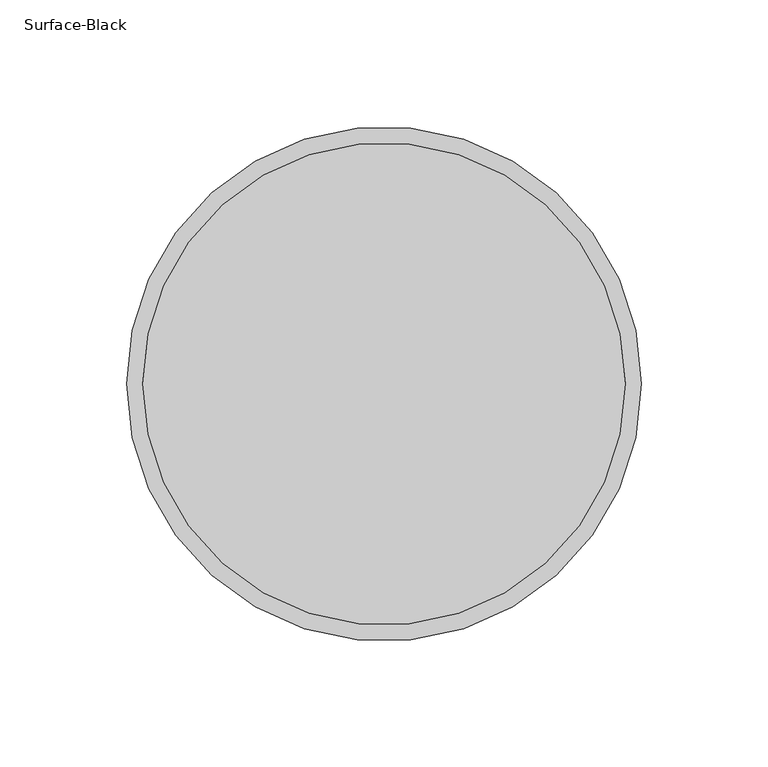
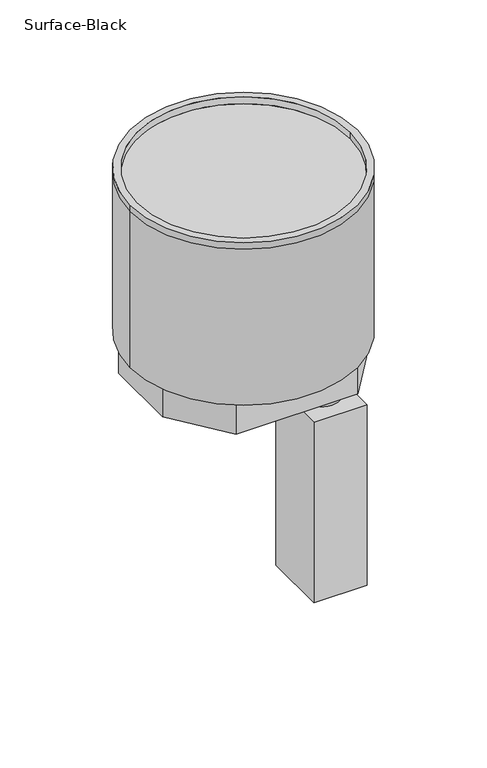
"""IFC4 building model written with IfcOpenShell, lengths in millimetres: proxy geometry, Poke_Thru_Device-Evolution_8AT_Series-Wiremold-Assembly : Surface-Black."""

from ifc_helpers import new_model, si_unit, point, frame, frame_2d, origin, origin_with_axes, place, context, project, spatial, polyline, circle_curve, trimmed, segment, composite_curve, outline, extrude, source, transform, mapped, element, save
from ifc_brep_helpers import plane_surface, cylinder_surface, revolved_surface, advanced_brep


def surface_black_841d07af(model_context):
    return source(origin(), model_context, "Body", "SolidModel", [
        advanced_brep(
        [(95.25, 0.0, -6.35), (-95.25, 0.0, -6.35), (-101.6, 0.0, -153.67), (101.6, 0.0, -153.67), (101.6, 0.0, -6.35), (-101.6, 0.0, -6.35), (-101.6, 0.0, 0.0), (101.6, 0.0, 0.0), (-95.25, 0.0, 0.0), (95.25, 0.0, 0.0)],
        [
            (0, 1, circle_curve(frame((0.0, 0.0, -6.35), z_axis=(0.0, 0.0, 1.0), x_axis=(1.0, 0.0, 0.0)), 95.25)),
            (1, 0, circle_curve(frame((0.0, 0.0, -6.35), z_axis=(0.0, 0.0, 1.0), x_axis=(1.0, 0.0, 0.0)), 95.25)),
            (2, 3, circle_curve(frame((0.0, 0.0, -153.67), z_axis=(0.0, 0.0, -1.0), x_axis=(1.0, 0.0, 0.0)), 101.6)),
            (3, 2, circle_curve(frame((0.0, 0.0, -153.67), z_axis=(0.0, 0.0, -1.0), x_axis=(1.0, 0.0, 0.0)), 101.6)),
            (3, 4),
            (4, 5, circle_curve(frame((0.0, 0.0, -6.35), z_axis=(0.0, 0.0, -1.0), x_axis=(1.0, 0.0, 0.0)), 101.6)),
            (5, 2),
            (5, 4, circle_curve(frame((0.0, 0.0, -6.35), z_axis=(0.0, 0.0, -1.0), x_axis=(1.0, 0.0, 0.0)), 101.6)),
            (6, 7, circle_curve(origin_with_axes(), 101.6)),
            (7, 6, circle_curve(origin_with_axes(), 101.6)),
            (8, 9, circle_curve(frame((0.0, 0.0, 0.0), z_axis=(0.0, 0.0, -1.0), x_axis=(1.0, 0.0, 0.0)), 95.25)),
            (9, 8, circle_curve(frame((0.0, 0.0, 0.0), z_axis=(0.0, 0.0, -1.0), x_axis=(1.0, 0.0, 0.0)), 95.25)),
            (6, 5),
            (4, 7),
            (8, 1),
            (0, 9),
        ],
        [
            plane_surface(frame((101.6, 0.0, -6.35), z_axis=(0.0, 0.0, 1.0), x_axis=(0.0, 1.0, 0.0))),
            plane_surface(frame((101.6, 0.0, -153.67), z_axis=(0.0, 0.0, -1.0), x_axis=(0.0, -1.0, 0.0))),
            cylinder_surface(frame((0.0, 0.0, -153.67), z_axis=(0.0, 0.0, 1.0), x_axis=(1.0, 0.0, 0.0)), 101.6),
            plane_surface(frame((101.6, 0.0, 0.0), z_axis=(0.0, 0.0, 1.0), x_axis=(0.0, 1.0, 0.0))),
            cylinder_surface(frame((0.0, 0.0, -6.35), z_axis=(0.0, 0.0, 1.0), x_axis=(1.0, 0.0, 0.0)), 101.6),
            revolved_surface(polyline([(95.25, 0.0, -6.35), (95.25, 0.0, 0.0)]), (0.0, 0.0, 0.0), (0.0, 0.0, -1.0)),
        ],
        [
            (0, [[1, 2]]),
            (1, [[3, 4]]),
            (2, [[-4, 5, 6, 7]]),
            (2, [[-3, -7, 8, -5]]),
            (3, [[9, 10], [11, 12]]),
            (4, [[-9, 13, -6, 14]]),
            (4, [[-10, -14, -8, -13]]),
            (5, [[-11, 15, -1, 16]]),
            (5, [[-12, -16, -2, -15]]),
        ],
    ),
        extrude(outline(polyline([(54.61, 82.55), (92.075, 34.036), (92.075, -34.036), (54.61, -82.55), (-54.61, -82.55), (-92.075, -34.036), (-92.075, 34.036), (-54.61, 82.55), (54.61, 82.55)])), frame((0.0, 0.0, -182.88), z_axis=(0.0, 0.0, 1.0), x_axis=(1.0, 0.0, 0.0)), (0.0, 0.0, 1.0), 29.21),
        extrude(outline(composite_curve([segment(trimmed(circle_curve(frame_2d((69.469, -0.229668)), 11.1252), [point((58.3438, -0.229668))], [point((80.5942, -0.229668))], False, "CARTESIAN"), True, "CONTINUOUS"), segment(trimmed(circle_curve(frame_2d((69.469, -0.229668)), 11.1252), [point((80.5942, -0.229668))], [point((58.3438, -0.229668))], False, "CARTESIAN"), True, "CONTINUOUS")], self_intersect=False)), frame((0.0, 0.0, -218.7956), z_axis=(0.0, 0.0, 1.0), x_axis=(1.0, 0.0, 0.0)), (0.0, 0.0, 1.0), 35.9156),
        extrude(outline(composite_curve([segment(trimmed(circle_curve(frame_2d((69.469, -0.229668)), 16.0528), [point((53.4162, -0.229668))], [point((85.5218, -0.229668))], False, "CARTESIAN"), True, "CONTINUOUS"), segment(trimmed(circle_curve(frame_2d((69.469, -0.229668)), 16.0528), [point((85.5218, -0.229668))], [point((53.4162, -0.229668))], False, "CARTESIAN"), True, "CONTINUOUS")], self_intersect=False)), frame((0.0, 0.0, -239.1156), z_axis=(0.0, 0.0, 1.0), x_axis=(1.0, 0.0, 0.0)), (0.0, 0.0, 1.0), 20.32),
        extrude(outline(polyline([(93.2688, 28.980332), (93.2688, -29.439668), (45.6692, -29.439668), (45.6692, 28.980332), (93.2688, 28.980332)])), frame((0.0, 0.0, -409.575), z_axis=(0.0, 0.0, 1.0), x_axis=(1.0, 0.0, 0.0)), (0.0, 0.0, 1.0), 170.4594),
    ])


if __name__ == "__main__":
    model = new_model("IFC4")
    model_context = context("Model", 3, world=origin())
    ifc_project = project(units=[si_unit("LENGTHUNIT", "METRE", prefix="MILLI")], contexts=[model_context])
    site = spatial("IfcSite", under=ifc_project)
    building = spatial("IfcBuilding", under=site)
    placement = place(None, origin())
    surface_black_shape = surface_black_841d07af(model_context)
    element("IfcBuildingElementProxy", 1, Name="Poke_Thru_Device-Evolution_8AT_Series-Wiremold-Assembly : Surface-Black", ObjectType="Poke_Thru_Device-Evolution_8AT_Series-Wiremold-Assembly : Surface-Black", at=placement, inside=building, context=model_context, shape_type="MappedRepresentation", body=[
        mapped(surface_black_shape, transform((0.0, 0.0, 0.0), x_axis=(1.0, 0.0, 0.0), y_axis=(0.0, 1.0, 0.0), z_axis=(0.0, 0.0, 1.0))),
    ])
    save(model, "model.ifc")
